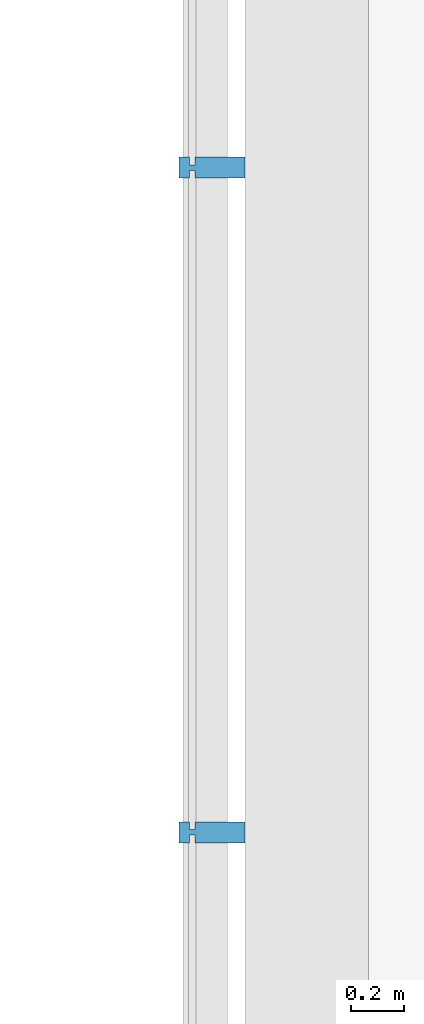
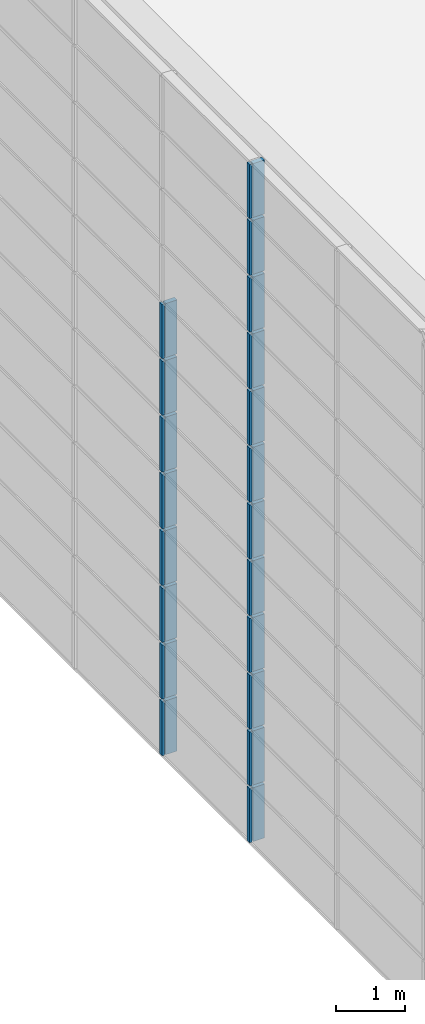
# One storey, part 70 of 105: 20 building element parts, 4 elements without a shape of their own.
"""IFC4 building model written with IfcOpenShell, lengths in millimetres."""

from ifc_helpers import new_model, entity, si_unit, converted_unit, derived_unit, direction, frame, origin_with_axes, place, context, subcontext, project, spatial, triangles, material, element, aggregate, save


model = new_model("IFC4")

# Units and contexts
model_context = context("Model", 3, precision=1e-05, world=origin_with_axes(), true_north=direction((0.0, 1.0)))
body_context = subcontext(model_context, "Body", "Model", "MODEL_VIEW")
ifc_project = project(units=[si_unit("LENGTHUNIT", "METRE", prefix="MILLI"), si_unit("AREAUNIT", "SQUARE_METRE"), si_unit("VOLUMEUNIT", "CUBIC_METRE"), converted_unit("PLANEANGLEUNIT", "DEGREE", entity("IfcLengthMeasure", 0.017453), si_unit("PLANEANGLEUNIT", "RADIAN"), dimensions=[0, 0, 0, 0, 0, 0, 0]), si_unit("SOLIDANGLEUNIT", "STERADIAN"), si_unit("MASSUNIT", "GRAM"), si_unit("TIMEUNIT", "SECOND"), si_unit("THERMODYNAMICTEMPERATUREUNIT", "DEGREE_CELSIUS"), si_unit("LUMINOUSINTENSITYUNIT", "LUMEN"), si_unit("POWERUNIT", "WATT"), derived_unit("THERMALTRANSMITTANCEUNIT", [(si_unit("POWERUNIT", "WATT"), 1), (si_unit("THERMODYNAMICTEMPERATUREUNIT", "KELVIN"), -1), (si_unit("AREAUNIT", "SQUARE_METRE"), -1)])], contexts=[model_context])

# Site, building, storey
site_placement = place(None, origin_with_axes())
site = spatial("IfcSite", under=ifc_project, at=site_placement, Name="Default Site", CompositionType="ELEMENT")
building_placement = place(site_placement, origin_with_axes())
building = spatial("IfcBuilding", under=site, at=building_placement, Name="Default Building", CompositionType="ELEMENT")
storey_placement = place(building_placement, origin_with_axes())
storey = spatial("IfcBuildingStorey", under=building, at=storey_placement, Name="OG - Story", CompositionType="ELEMENT", Elevation=0.0)

# Curtain wall, building element parts
curtain_wall_1_placement = place(storey_placement, origin_with_axes())
curtain_wall_1 = element("IfcCurtainWall", 1, at=curtain_wall_1_placement, inside=storey, Name="Fassade-003", PredefinedType="NOTDEFINED")
ifc_material = material(Name="Blech")
building_element_part_1_placement = place(curtain_wall_1_placement, frame((31551.391327, -51326.104944, 0.0), z_axis=(0.0, 0.0, 1.0), x_axis=(1.0, 0.0, 0.0)))
building_element_part_1 = element("IfcBuildingElementPart", 2, at=building_element_part_1_placement, material=ifc_material, Name="Blech", PredefinedType="NOTDEFINED", context=body_context, shape_type="Tessellation", body=[
    triangles([(200.0, 13854.737, 975.0), (10.0, 13854.737, 975.0), (200.0, 13934.737, 975.0), (10.0, 13884.737, 975.0), (10.0, 13904.737, 975.0), (-9.999, 13884.737, 975.0), (-9.999, 13904.737, 975.0), (-9.999, 13934.737, 975.0), (-9.999, 13854.737, 975.0), (-49.999, 13854.737, 975.0), (-49.999, 13934.737, 975.0), (10.0, 13934.737, 975.0), (10.0, 13904.737, 25.0), (-9.999, 13904.737, 25.0), (-9.999, 13934.737, 25.0), (-49.999, 13934.737, 25.0), (-49.999, 13854.737, 25.0), (-9.999, 13854.737, 25.0), (-9.999, 13884.737, 25.0), (10.0, 13884.737, 25.0), (10.0, 13854.737, 25.0), (200.0, 13854.737, 25.0), (200.0, 13934.737, 25.0), (10.0, 13934.737, 25.0)], [[1, 2, 3], [3, 2, 4], [3, 4, 5], [5, 4, 6], [5, 6, 7], [8, 9, 10], [8, 10, 11], [3, 5, 12], [5, 13, 14], [5, 14, 7], [7, 14, 15], [7, 15, 8], [15, 16, 11], [15, 11, 8], [10, 11, 16], [10, 16, 17], [18, 9, 10], [18, 10, 17], [9, 18, 19], [9, 19, 6], [4, 6, 19], [4, 19, 20], [2, 4, 20], [2, 20, 21], [2, 21, 22], [2, 22, 1], [3, 1, 22], [3, 22, 23], [12, 3, 23], [12, 23, 24], [12, 24, 13], [12, 13, 5], [23, 24, 22], [22, 24, 13], [22, 13, 20], [20, 13, 14], [20, 14, 19], [18, 15, 16], [18, 16, 17], [22, 20, 21]], closed=False),
])
building_element_part_2_placement = place(curtain_wall_1_placement, frame((31551.391327, -51326.104944, 0.0), z_axis=(0.0, 0.0, 1.0), x_axis=(1.0, 0.0, 0.0)))
building_element_part_2 = element("IfcBuildingElementPart", 3, at=building_element_part_2_placement, material=ifc_material, Name="Blech", PredefinedType="NOTDEFINED", context=body_context, shape_type="Tessellation", body=[
    triangles([(200.0, 16381.053, 975.0), (10.0, 16381.053, 975.0), (200.0, 16461.053, 975.0), (10.0, 16411.053, 975.0), (10.0, 16431.053, 975.0), (-9.999, 16411.053, 975.0), (-9.999, 16431.053, 975.0), (-9.999, 16461.053, 975.0), (-9.999, 16381.053, 975.0), (-49.999, 16381.053, 975.0), (-49.999, 16461.053, 975.0), (10.0, 16461.053, 975.0), (10.0, 16431.053, 25.0), (-9.999, 16431.053, 25.0), (-9.999, 16461.053, 25.0), (-49.999, 16461.053, 25.0), (-49.999, 16381.053, 25.0), (-9.999, 16381.053, 25.0), (-9.999, 16411.053, 25.0), (10.0, 16411.053, 25.0), (10.0, 16381.053, 25.0), (200.0, 16381.053, 25.0), (200.0, 16461.053, 25.0), (10.0, 16461.053, 25.0)], [[1, 2, 3], [3, 2, 4], [3, 4, 5], [5, 4, 6], [5, 6, 7], [8, 9, 10], [8, 10, 11], [3, 5, 12], [5, 13, 14], [5, 14, 7], [7, 14, 15], [7, 15, 8], [15, 16, 11], [15, 11, 8], [10, 11, 16], [10, 16, 17], [18, 9, 10], [18, 10, 17], [9, 18, 19], [9, 19, 6], [4, 6, 19], [4, 19, 20], [2, 4, 20], [2, 20, 21], [2, 21, 22], [2, 22, 1], [3, 1, 22], [3, 22, 23], [12, 3, 23], [12, 23, 24], [12, 24, 13], [12, 13, 5], [23, 24, 22], [22, 24, 13], [22, 13, 20], [20, 13, 14], [20, 14, 19], [18, 15, 16], [18, 16, 17], [22, 20, 21]], closed=False),
])
building_element_part_3_placement = place(curtain_wall_1_placement, frame((31551.391327, -51326.104944, 0.0), z_axis=(0.0, 0.0, 1.0), x_axis=(1.0, 0.0, 0.0)))
building_element_part_3 = element("IfcBuildingElementPart", 4, at=building_element_part_3_placement, material=ifc_material, Name="Blech", PredefinedType="NOTDEFINED", context=body_context, shape_type="Tessellation", body=[
    triangles([(200.0, 13854.737, 1975.0), (10.0, 13854.737, 1975.0), (200.0, 13934.737, 1975.0), (10.0, 13884.737, 1975.0), (10.0, 13904.737, 1975.0), (-9.999, 13884.737, 1975.0), (-9.999, 13904.737, 1975.0), (-9.999, 13934.737, 1975.0), (-9.999, 13854.737, 1975.0), (-49.999, 13854.737, 1975.0), (-49.999, 13934.737, 1975.0), (10.0, 13934.737, 1975.0), (10.0, 13904.737, 1025.0), (-9.999, 13904.737, 1025.0), (-9.999, 13934.737, 1025.0), (-49.999, 13934.737, 1025.0), (-49.999, 13854.737, 1025.0), (-9.999, 13854.737, 1025.0), (-9.999, 13884.737, 1025.0), (10.0, 13884.737, 1025.0), (10.0, 13854.737, 1025.0), (200.0, 13854.737, 1025.0), (200.0, 13934.737, 1025.0), (10.0, 13934.737, 1025.0)], [[1, 2, 3], [3, 2, 4], [3, 4, 5], [5, 4, 6], [5, 6, 7], [8, 9, 10], [8, 10, 11], [3, 5, 12], [5, 13, 14], [5, 14, 7], [7, 14, 15], [7, 15, 8], [15, 16, 11], [15, 11, 8], [10, 11, 16], [10, 16, 17], [18, 9, 10], [18, 10, 17], [9, 18, 19], [9, 19, 6], [4, 6, 19], [4, 19, 20], [2, 4, 20], [2, 20, 21], [2, 21, 22], [2, 22, 1], [3, 1, 22], [3, 22, 23], [12, 3, 23], [12, 23, 24], [12, 24, 13], [12, 13, 5], [23, 24, 22], [22, 24, 13], [22, 13, 20], [20, 13, 14], [20, 14, 19], [18, 15, 16], [18, 16, 17], [22, 20, 21]], closed=False),
])
building_element_part_4_placement = place(curtain_wall_1_placement, frame((31551.391327, -51326.104944, 0.0), z_axis=(0.0, 0.0, 1.0), x_axis=(1.0, 0.0, 0.0)))
building_element_part_4 = element("IfcBuildingElementPart", 5, at=building_element_part_4_placement, material=ifc_material, Name="Blech", PredefinedType="NOTDEFINED", context=body_context, shape_type="Tessellation", body=[
    triangles([(200.0, 16381.053, 1975.0), (10.0, 16381.053, 1975.0), (200.0, 16461.053, 1975.0), (10.0, 16411.053, 1975.0), (10.0, 16431.053, 1975.0), (-9.999, 16411.053, 1975.0), (-9.999, 16431.053, 1975.0), (-9.999, 16461.053, 1975.0), (-9.999, 16381.053, 1975.0), (-49.999, 16381.053, 1975.0), (-49.999, 16461.053, 1975.0), (10.0, 16461.053, 1975.0), (10.0, 16431.053, 1025.0), (-9.999, 16431.053, 1025.0), (-9.999, 16461.053, 1025.0), (-49.999, 16461.053, 1025.0), (-49.999, 16381.053, 1025.0), (-9.999, 16381.053, 1025.0), (-9.999, 16411.053, 1025.0), (10.0, 16411.053, 1025.0), (10.0, 16381.053, 1025.0), (200.0, 16381.053, 1025.0), (200.0, 16461.053, 1025.0), (10.0, 16461.053, 1025.0)], [[1, 2, 3], [3, 2, 4], [3, 4, 5], [5, 4, 6], [5, 6, 7], [8, 9, 10], [8, 10, 11], [3, 5, 12], [5, 13, 14], [5, 14, 7], [7, 14, 15], [7, 15, 8], [15, 16, 11], [15, 11, 8], [10, 11, 16], [10, 16, 17], [18, 9, 10], [18, 10, 17], [9, 18, 19], [9, 19, 6], [4, 6, 19], [4, 19, 20], [2, 4, 20], [2, 20, 21], [2, 21, 22], [2, 22, 1], [3, 1, 22], [3, 22, 23], [12, 3, 23], [12, 23, 24], [12, 24, 13], [12, 13, 5], [23, 24, 22], [22, 24, 13], [22, 13, 20], [20, 13, 14], [20, 14, 19], [18, 15, 16], [18, 16, 17], [22, 20, 21]], closed=False),
])
building_element_part_5_placement = place(curtain_wall_1_placement, frame((31551.391327, -51326.104944, 0.0), z_axis=(0.0, 0.0, 1.0), x_axis=(1.0, 0.0, 0.0)))
building_element_part_5 = element("IfcBuildingElementPart", 6, at=building_element_part_5_placement, material=ifc_material, Name="Blech", PredefinedType="NOTDEFINED", context=body_context, shape_type="Tessellation", body=[
    triangles([(200.0, 13854.737, 2975.0), (10.0, 13854.737, 2975.0), (200.0, 13934.737, 2975.0), (10.0, 13884.737, 2975.0), (10.0, 13904.737, 2975.0), (-9.999, 13884.737, 2975.0), (-9.999, 13904.737, 2975.0), (-9.999, 13934.737, 2975.0), (-9.999, 13854.737, 2975.0), (-49.999, 13854.737, 2975.0), (-49.999, 13934.737, 2975.0), (10.0, 13934.737, 2975.0), (10.0, 13904.737, 2025.0), (-9.999, 13904.737, 2025.0), (-9.999, 13934.737, 2025.0), (-49.999, 13934.737, 2025.0), (-49.999, 13854.737, 2025.0), (-9.999, 13854.737, 2025.0), (-9.999, 13884.737, 2025.0), (10.0, 13884.737, 2025.0), (10.0, 13854.737, 2025.0), (200.0, 13854.737, 2025.0), (200.0, 13934.737, 2025.0), (10.0, 13934.737, 2025.0)], [[1, 2, 3], [3, 2, 4], [3, 4, 5], [5, 4, 6], [5, 6, 7], [8, 9, 10], [8, 10, 11], [3, 5, 12], [5, 13, 14], [5, 14, 7], [7, 14, 15], [7, 15, 8], [15, 16, 11], [15, 11, 8], [10, 11, 16], [10, 16, 17], [18, 9, 10], [18, 10, 17], [9, 18, 19], [9, 19, 6], [4, 6, 19], [4, 19, 20], [2, 4, 20], [2, 20, 21], [2, 21, 22], [2, 22, 1], [3, 1, 22], [3, 22, 23], [12, 3, 23], [12, 23, 24], [12, 24, 13], [12, 13, 5], [23, 24, 22], [22, 24, 13], [22, 13, 20], [20, 13, 14], [20, 14, 19], [18, 15, 16], [18, 16, 17], [22, 20, 21]], closed=False),
])
building_element_part_6_placement = place(curtain_wall_1_placement, frame((31551.391327, -51326.104944, 0.0), z_axis=(0.0, 0.0, 1.0), x_axis=(1.0, 0.0, 0.0)))
building_element_part_6 = element("IfcBuildingElementPart", 7, at=building_element_part_6_placement, material=ifc_material, Name="Blech", PredefinedType="NOTDEFINED", context=body_context, shape_type="Tessellation", body=[
    triangles([(200.0, 16381.053, 2975.0), (10.0, 16381.053, 2975.0), (200.0, 16461.053, 2975.0), (10.0, 16411.053, 2975.0), (10.0, 16431.053, 2975.0), (-9.999, 16411.053, 2975.0), (-9.999, 16431.053, 2975.0), (-9.999, 16461.053, 2975.0), (-9.999, 16381.053, 2975.0), (-49.999, 16381.053, 2975.0), (-49.999, 16461.053, 2975.0), (10.0, 16461.053, 2975.0), (10.0, 16431.053, 2025.0), (-9.999, 16431.053, 2025.0), (-9.999, 16461.053, 2025.0), (-49.999, 16461.053, 2025.0), (-49.999, 16381.053, 2025.0), (-9.999, 16381.053, 2025.0), (-9.999, 16411.053, 2025.0), (10.0, 16411.053, 2025.0), (10.0, 16381.053, 2025.0), (200.0, 16381.053, 2025.0), (200.0, 16461.053, 2025.0), (10.0, 16461.053, 2025.0)], [[1, 2, 3], [3, 2, 4], [3, 4, 5], [5, 4, 6], [5, 6, 7], [8, 9, 10], [8, 10, 11], [3, 5, 12], [5, 13, 14], [5, 14, 7], [7, 14, 15], [7, 15, 8], [15, 16, 11], [15, 11, 8], [10, 11, 16], [10, 16, 17], [18, 9, 10], [18, 10, 17], [9, 18, 19], [9, 19, 6], [4, 6, 19], [4, 19, 20], [2, 4, 20], [2, 20, 21], [2, 21, 22], [2, 22, 1], [3, 1, 22], [3, 22, 23], [12, 3, 23], [12, 23, 24], [12, 24, 13], [12, 13, 5], [23, 24, 22], [22, 24, 13], [22, 13, 20], [20, 13, 14], [20, 14, 19], [18, 15, 16], [18, 16, 17], [22, 20, 21]], closed=False),
])
aggregate(curtain_wall_1, [building_element_part_1, building_element_part_2, building_element_part_3, building_element_part_4, building_element_part_5, building_element_part_6])

curtain_wall_2_placement = place(storey_placement, origin_with_axes())
curtain_wall_2 = element("IfcCurtainWall", 8, at=curtain_wall_2_placement, inside=storey, Name="Fassade-003", PredefinedType="NOTDEFINED")
building_element_part_7_placement = place(curtain_wall_2_placement, frame((31551.391327, -51326.104944, 3000.0), z_axis=(0.0, 0.0, 1.0), x_axis=(1.0, 0.0, 0.0)))
building_element_part_7 = element("IfcBuildingElementPart", 9, at=building_element_part_7_placement, material=ifc_material, Name="Blech", PredefinedType="NOTDEFINED", context=body_context, shape_type="Tessellation", body=[
    triangles([(200.0, 13854.737, 975.0), (10.0, 13854.737, 975.0), (200.0, 13934.737, 975.0), (10.0, 13884.737, 975.0), (10.0, 13904.737, 975.0), (-9.999, 13884.737, 975.0), (-9.999, 13904.737, 975.0), (-9.999, 13934.737, 975.0), (-9.999, 13854.737, 975.0), (-49.999, 13854.737, 975.0), (-49.999, 13934.737, 975.0), (10.0, 13934.737, 975.0), (10.0, 13904.737, 25.0), (-9.999, 13904.737, 25.0), (-9.999, 13934.737, 25.0), (-49.999, 13934.737, 25.0), (-49.999, 13854.737, 25.0), (-9.999, 13854.737, 25.0), (-9.999, 13884.737, 25.0), (10.0, 13884.737, 25.0), (10.0, 13854.737, 25.0), (200.0, 13854.737, 25.0), (200.0, 13934.737, 25.0), (10.0, 13934.737, 25.0)], [[1, 2, 3], [3, 2, 4], [3, 4, 5], [5, 4, 6], [5, 6, 7], [8, 9, 10], [8, 10, 11], [3, 5, 12], [5, 13, 14], [5, 14, 7], [7, 14, 15], [7, 15, 8], [15, 16, 11], [15, 11, 8], [10, 11, 16], [10, 16, 17], [18, 9, 10], [18, 10, 17], [9, 18, 19], [9, 19, 6], [4, 6, 19], [4, 19, 20], [2, 4, 20], [2, 20, 21], [2, 21, 22], [2, 22, 1], [3, 1, 22], [3, 22, 23], [12, 3, 23], [12, 23, 24], [12, 24, 13], [12, 13, 5], [23, 24, 22], [22, 24, 13], [22, 13, 20], [20, 13, 14], [20, 14, 19], [18, 15, 16], [18, 16, 17], [22, 20, 21]], closed=False),
])
building_element_part_8_placement = place(curtain_wall_2_placement, frame((31551.391327, -51326.104944, 3000.0), z_axis=(0.0, 0.0, 1.0), x_axis=(1.0, 0.0, 0.0)))
building_element_part_8 = element("IfcBuildingElementPart", 10, at=building_element_part_8_placement, material=ifc_material, Name="Blech", PredefinedType="NOTDEFINED", context=body_context, shape_type="Tessellation", body=[
    triangles([(200.0, 16381.053, 975.0), (10.0, 16381.053, 975.0), (200.0, 16461.053, 975.0), (10.0, 16411.053, 975.0), (10.0, 16431.053, 975.0), (-9.999, 16411.053, 975.0), (-9.999, 16431.053, 975.0), (-9.999, 16461.053, 975.0), (-9.999, 16381.053, 975.0), (-49.999, 16381.053, 975.0), (-49.999, 16461.053, 975.0), (10.0, 16461.053, 975.0), (10.0, 16431.053, 25.0), (-9.999, 16431.053, 25.0), (-9.999, 16461.053, 25.0), (-49.999, 16461.053, 25.0), (-49.999, 16381.053, 25.0), (-9.999, 16381.053, 25.0), (-9.999, 16411.053, 25.0), (10.0, 16411.053, 25.0), (10.0, 16381.053, 25.0), (200.0, 16381.053, 25.0), (200.0, 16461.053, 25.0), (10.0, 16461.053, 25.0)], [[1, 2, 3], [3, 2, 4], [3, 4, 5], [5, 4, 6], [5, 6, 7], [8, 9, 10], [8, 10, 11], [3, 5, 12], [5, 13, 14], [5, 14, 7], [7, 14, 15], [7, 15, 8], [15, 16, 11], [15, 11, 8], [10, 11, 16], [10, 16, 17], [18, 9, 10], [18, 10, 17], [9, 18, 19], [9, 19, 6], [4, 6, 19], [4, 19, 20], [2, 4, 20], [2, 20, 21], [2, 21, 22], [2, 22, 1], [3, 1, 22], [3, 22, 23], [12, 3, 23], [12, 23, 24], [12, 24, 13], [12, 13, 5], [23, 24, 22], [22, 24, 13], [22, 13, 20], [20, 13, 14], [20, 14, 19], [18, 15, 16], [18, 16, 17], [22, 20, 21]], closed=False),
])
building_element_part_9_placement = place(curtain_wall_2_placement, frame((31551.391327, -51326.104944, 3000.0), z_axis=(0.0, 0.0, 1.0), x_axis=(1.0, 0.0, 0.0)))
building_element_part_9 = element("IfcBuildingElementPart", 11, at=building_element_part_9_placement, material=ifc_material, Name="Blech", PredefinedType="NOTDEFINED", context=body_context, shape_type="Tessellation", body=[
    triangles([(200.0, 13854.737, 1975.0), (10.0, 13854.737, 1975.0), (200.0, 13934.737, 1975.0), (10.0, 13884.737, 1975.0), (10.0, 13904.737, 1975.0), (-9.999, 13884.737, 1975.0), (-9.999, 13904.737, 1975.0), (-9.999, 13934.737, 1975.0), (-9.999, 13854.737, 1975.0), (-49.999, 13854.737, 1975.0), (-49.999, 13934.737, 1975.0), (10.0, 13934.737, 1975.0), (10.0, 13904.737, 1025.0), (-9.999, 13904.737, 1025.0), (-9.999, 13934.737, 1025.0), (-49.999, 13934.737, 1025.0), (-49.999, 13854.737, 1025.0), (-9.999, 13854.737, 1025.0), (-9.999, 13884.737, 1025.0), (10.0, 13884.737, 1025.0), (10.0, 13854.737, 1025.0), (200.0, 13854.737, 1025.0), (200.0, 13934.737, 1025.0), (10.0, 13934.737, 1025.0)], [[1, 2, 3], [3, 2, 4], [3, 4, 5], [5, 4, 6], [5, 6, 7], [8, 9, 10], [8, 10, 11], [3, 5, 12], [5, 13, 14], [5, 14, 7], [7, 14, 15], [7, 15, 8], [15, 16, 11], [15, 11, 8], [10, 11, 16], [10, 16, 17], [18, 9, 10], [18, 10, 17], [9, 18, 19], [9, 19, 6], [4, 6, 19], [4, 19, 20], [2, 4, 20], [2, 20, 21], [2, 21, 22], [2, 22, 1], [3, 1, 22], [3, 22, 23], [12, 3, 23], [12, 23, 24], [12, 24, 13], [12, 13, 5], [23, 24, 22], [22, 24, 13], [22, 13, 20], [20, 13, 14], [20, 14, 19], [18, 15, 16], [18, 16, 17], [22, 20, 21]], closed=False),
])
building_element_part_10_placement = place(curtain_wall_2_placement, frame((31551.391327, -51326.104944, 3000.0), z_axis=(0.0, 0.0, 1.0), x_axis=(1.0, 0.0, 0.0)))
building_element_part_10 = element("IfcBuildingElementPart", 12, at=building_element_part_10_placement, material=ifc_material, Name="Blech", PredefinedType="NOTDEFINED", context=body_context, shape_type="Tessellation", body=[
    triangles([(200.0, 16381.053, 1975.0), (10.0, 16381.053, 1975.0), (200.0, 16461.053, 1975.0), (10.0, 16411.053, 1975.0), (10.0, 16431.053, 1975.0), (-9.999, 16411.053, 1975.0), (-9.999, 16431.053, 1975.0), (-9.999, 16461.053, 1975.0), (-9.999, 16381.053, 1975.0), (-49.999, 16381.053, 1975.0), (-49.999, 16461.053, 1975.0), (10.0, 16461.053, 1975.0), (10.0, 16431.053, 1025.0), (-9.999, 16431.053, 1025.0), (-9.999, 16461.053, 1025.0), (-49.999, 16461.053, 1025.0), (-49.999, 16381.053, 1025.0), (-9.999, 16381.053, 1025.0), (-9.999, 16411.053, 1025.0), (10.0, 16411.053, 1025.0), (10.0, 16381.053, 1025.0), (200.0, 16381.053, 1025.0), (200.0, 16461.053, 1025.0), (10.0, 16461.053, 1025.0)], [[1, 2, 3], [3, 2, 4], [3, 4, 5], [5, 4, 6], [5, 6, 7], [8, 9, 10], [8, 10, 11], [3, 5, 12], [5, 13, 14], [5, 14, 7], [7, 14, 15], [7, 15, 8], [15, 16, 11], [15, 11, 8], [10, 11, 16], [10, 16, 17], [18, 9, 10], [18, 10, 17], [9, 18, 19], [9, 19, 6], [4, 6, 19], [4, 19, 20], [2, 4, 20], [2, 20, 21], [2, 21, 22], [2, 22, 1], [3, 1, 22], [3, 22, 23], [12, 3, 23], [12, 23, 24], [12, 24, 13], [12, 13, 5], [23, 24, 22], [22, 24, 13], [22, 13, 20], [20, 13, 14], [20, 14, 19], [18, 15, 16], [18, 16, 17], [22, 20, 21]], closed=False),
])
building_element_part_11_placement = place(curtain_wall_2_placement, frame((31551.391327, -51326.104944, 3000.0), z_axis=(0.0, 0.0, 1.0), x_axis=(1.0, 0.0, 0.0)))
building_element_part_11 = element("IfcBuildingElementPart", 13, at=building_element_part_11_placement, material=ifc_material, Name="Blech", PredefinedType="NOTDEFINED", context=body_context, shape_type="Tessellation", body=[
    triangles([(200.0, 13854.737, 2975.0), (10.0, 13854.737, 2975.0), (200.0, 13934.737, 2975.0), (10.0, 13884.737, 2975.0), (10.0, 13904.737, 2975.0), (-9.999, 13884.737, 2975.0), (-9.999, 13904.737, 2975.0), (-9.999, 13934.737, 2975.0), (-9.999, 13854.737, 2975.0), (-49.999, 13854.737, 2975.0), (-49.999, 13934.737, 2975.0), (10.0, 13934.737, 2975.0), (10.0, 13904.737, 2025.0), (-9.999, 13904.737, 2025.0), (-9.999, 13934.737, 2025.0), (-49.999, 13934.737, 2025.0), (-49.999, 13854.737, 2025.0), (-9.999, 13854.737, 2025.0), (-9.999, 13884.737, 2025.0), (10.0, 13884.737, 2025.0), (10.0, 13854.737, 2025.0), (200.0, 13854.737, 2025.0), (200.0, 13934.737, 2025.0), (10.0, 13934.737, 2025.0)], [[1, 2, 3], [3, 2, 4], [3, 4, 5], [5, 4, 6], [5, 6, 7], [8, 9, 10], [8, 10, 11], [3, 5, 12], [5, 13, 14], [5, 14, 7], [7, 14, 15], [7, 15, 8], [15, 16, 11], [15, 11, 8], [10, 11, 16], [10, 16, 17], [18, 9, 10], [18, 10, 17], [9, 18, 19], [9, 19, 6], [4, 6, 19], [4, 19, 20], [2, 4, 20], [2, 20, 21], [2, 21, 22], [2, 22, 1], [3, 1, 22], [3, 22, 23], [12, 3, 23], [12, 23, 24], [12, 24, 13], [12, 13, 5], [23, 24, 22], [22, 24, 13], [22, 13, 20], [20, 13, 14], [20, 14, 19], [18, 15, 16], [18, 16, 17], [22, 20, 21]], closed=False),
])
building_element_part_12_placement = place(curtain_wall_2_placement, frame((31551.391327, -51326.104944, 3000.0), z_axis=(0.0, 0.0, 1.0), x_axis=(1.0, 0.0, 0.0)))
building_element_part_12 = element("IfcBuildingElementPart", 14, at=building_element_part_12_placement, material=ifc_material, Name="Blech", PredefinedType="NOTDEFINED", context=body_context, shape_type="Tessellation", body=[
    triangles([(200.0, 16381.053, 2975.0), (10.0, 16381.053, 2975.0), (200.0, 16461.053, 2975.0), (10.0, 16411.053, 2975.0), (10.0, 16431.053, 2975.0), (-9.999, 16411.053, 2975.0), (-9.999, 16431.053, 2975.0), (-9.999, 16461.053, 2975.0), (-9.999, 16381.053, 2975.0), (-49.999, 16381.053, 2975.0), (-49.999, 16461.053, 2975.0), (10.0, 16461.053, 2975.0), (10.0, 16431.053, 2025.0), (-9.999, 16431.053, 2025.0), (-9.999, 16461.053, 2025.0), (-49.999, 16461.053, 2025.0), (-49.999, 16381.053, 2025.0), (-9.999, 16381.053, 2025.0), (-9.999, 16411.053, 2025.0), (10.0, 16411.053, 2025.0), (10.0, 16381.053, 2025.0), (200.0, 16381.053, 2025.0), (200.0, 16461.053, 2025.0), (10.0, 16461.053, 2025.0)], [[1, 2, 3], [3, 2, 4], [3, 4, 5], [5, 4, 6], [5, 6, 7], [8, 9, 10], [8, 10, 11], [3, 5, 12], [5, 13, 14], [5, 14, 7], [7, 14, 15], [7, 15, 8], [15, 16, 11], [15, 11, 8], [10, 11, 16], [10, 16, 17], [18, 9, 10], [18, 10, 17], [9, 18, 19], [9, 19, 6], [4, 6, 19], [4, 19, 20], [2, 4, 20], [2, 20, 21], [2, 21, 22], [2, 22, 1], [3, 1, 22], [3, 22, 23], [12, 3, 23], [12, 23, 24], [12, 24, 13], [12, 13, 5], [23, 24, 22], [22, 24, 13], [22, 13, 20], [20, 13, 14], [20, 14, 19], [18, 15, 16], [18, 16, 17], [22, 20, 21]], closed=False),
])
aggregate(curtain_wall_2, [building_element_part_7, building_element_part_8, building_element_part_9, building_element_part_10, building_element_part_11, building_element_part_12])

curtain_wall_3_placement = place(storey_placement, origin_with_axes())
curtain_wall_3 = element("IfcCurtainWall", 15, at=curtain_wall_3_placement, inside=storey, Name="Fassade-003", PredefinedType="NOTDEFINED")
building_element_part_13_placement = place(curtain_wall_3_placement, frame((31551.391327, -51326.104944, 6000.0), z_axis=(0.0, 0.0, 1.0), x_axis=(1.0, 0.0, 0.0)))
building_element_part_13 = element("IfcBuildingElementPart", 16, at=building_element_part_13_placement, material=ifc_material, Name="Blech", PredefinedType="NOTDEFINED", context=body_context, shape_type="Tessellation", body=[
    triangles([(200.0, 13854.737, 975.0), (10.0, 13854.737, 975.0), (200.0, 13934.737, 975.0), (10.0, 13884.737, 975.0), (10.0, 13904.737, 975.0), (-9.999, 13884.737, 975.0), (-9.999, 13904.737, 975.0), (-9.999, 13934.737, 975.0), (-9.999, 13854.737, 975.0), (-49.999, 13854.737, 975.0), (-49.999, 13934.737, 975.0), (10.0, 13934.737, 975.0), (10.0, 13904.737, 25.0), (-9.999, 13904.737, 25.0), (-9.999, 13934.737, 25.0), (-49.999, 13934.737, 25.0), (-49.999, 13854.737, 25.0), (-9.999, 13854.737, 25.0), (-9.999, 13884.737, 25.0), (10.0, 13884.737, 25.0), (10.0, 13854.737, 25.0), (200.0, 13854.737, 25.0), (200.0, 13934.737, 25.0), (10.0, 13934.737, 25.0)], [[1, 2, 3], [3, 2, 4], [3, 4, 5], [5, 4, 6], [5, 6, 7], [8, 9, 10], [8, 10, 11], [3, 5, 12], [5, 13, 14], [5, 14, 7], [7, 14, 15], [7, 15, 8], [15, 16, 11], [15, 11, 8], [10, 11, 16], [10, 16, 17], [18, 9, 10], [18, 10, 17], [9, 18, 19], [9, 19, 6], [4, 6, 19], [4, 19, 20], [2, 4, 20], [2, 20, 21], [2, 21, 22], [2, 22, 1], [3, 1, 22], [3, 22, 23], [12, 3, 23], [12, 23, 24], [12, 24, 13], [12, 13, 5], [23, 24, 22], [22, 24, 13], [22, 13, 20], [20, 13, 14], [20, 14, 19], [18, 15, 16], [18, 16, 17], [22, 20, 21]], closed=False),
])
building_element_part_14_placement = place(curtain_wall_3_placement, frame((31551.391327, -51326.104944, 6000.0), z_axis=(0.0, 0.0, 1.0), x_axis=(1.0, 0.0, 0.0)))
building_element_part_14 = element("IfcBuildingElementPart", 17, at=building_element_part_14_placement, material=ifc_material, Name="Blech", PredefinedType="NOTDEFINED", context=body_context, shape_type="Tessellation", body=[
    triangles([(200.0, 16381.053, 975.0), (10.0, 16381.053, 975.0), (200.0, 16461.053, 975.0), (10.0, 16411.053, 975.0), (10.0, 16431.053, 975.0), (-9.999, 16411.053, 975.0), (-9.999, 16431.053, 975.0), (-9.999, 16461.053, 975.0), (-9.999, 16381.053, 975.0), (-49.999, 16381.053, 975.0), (-49.999, 16461.053, 975.0), (10.0, 16461.053, 975.0), (10.0, 16431.053, 25.0), (-9.999, 16431.053, 25.0), (-9.999, 16461.053, 25.0), (-49.999, 16461.053, 25.0), (-49.999, 16381.053, 25.0), (-9.999, 16381.053, 25.0), (-9.999, 16411.053, 25.0), (10.0, 16411.053, 25.0), (10.0, 16381.053, 25.0), (200.0, 16381.053, 25.0), (200.0, 16461.053, 25.0), (10.0, 16461.053, 25.0)], [[1, 2, 3], [3, 2, 4], [3, 4, 5], [5, 4, 6], [5, 6, 7], [8, 9, 10], [8, 10, 11], [3, 5, 12], [5, 13, 14], [5, 14, 7], [7, 14, 15], [7, 15, 8], [15, 16, 11], [15, 11, 8], [10, 11, 16], [10, 16, 17], [18, 9, 10], [18, 10, 17], [9, 18, 19], [9, 19, 6], [4, 6, 19], [4, 19, 20], [2, 4, 20], [2, 20, 21], [2, 21, 22], [2, 22, 1], [3, 1, 22], [3, 22, 23], [12, 3, 23], [12, 23, 24], [12, 24, 13], [12, 13, 5], [23, 24, 22], [22, 24, 13], [22, 13, 20], [20, 13, 14], [20, 14, 19], [18, 15, 16], [18, 16, 17], [22, 20, 21]], closed=False),
])
building_element_part_15_placement = place(curtain_wall_3_placement, frame((31551.391327, -51326.104944, 6000.0), z_axis=(0.0, 0.0, 1.0), x_axis=(1.0, 0.0, 0.0)))
building_element_part_15 = element("IfcBuildingElementPart", 18, at=building_element_part_15_placement, material=ifc_material, Name="Blech", PredefinedType="NOTDEFINED", context=body_context, shape_type="Tessellation", body=[
    triangles([(200.0, 13854.737, 1975.0), (10.0, 13854.737, 1975.0), (200.0, 13934.737, 1975.0), (10.0, 13884.737, 1975.0), (10.0, 13904.737, 1975.0), (-9.999, 13884.737, 1975.0), (-9.999, 13904.737, 1975.0), (-9.999, 13934.737, 1975.0), (-9.999, 13854.737, 1975.0), (-49.999, 13854.737, 1975.0), (-49.999, 13934.737, 1975.0), (10.0, 13934.737, 1975.0), (10.0, 13904.737, 1025.0), (-9.999, 13904.737, 1025.0), (-9.999, 13934.737, 1025.0), (-49.999, 13934.737, 1025.0), (-49.999, 13854.737, 1025.0), (-9.999, 13854.737, 1025.0), (-9.999, 13884.737, 1025.0), (10.0, 13884.737, 1025.0), (10.0, 13854.737, 1025.0), (200.0, 13854.737, 1025.0), (200.0, 13934.737, 1025.0), (10.0, 13934.737, 1025.0)], [[1, 2, 3], [3, 2, 4], [3, 4, 5], [5, 4, 6], [5, 6, 7], [8, 9, 10], [8, 10, 11], [3, 5, 12], [5, 13, 14], [5, 14, 7], [7, 14, 15], [7, 15, 8], [15, 16, 11], [15, 11, 8], [10, 11, 16], [10, 16, 17], [18, 9, 10], [18, 10, 17], [9, 18, 19], [9, 19, 6], [4, 6, 19], [4, 19, 20], [2, 4, 20], [2, 20, 21], [2, 21, 22], [2, 22, 1], [3, 1, 22], [3, 22, 23], [12, 3, 23], [12, 23, 24], [12, 24, 13], [12, 13, 5], [23, 24, 22], [22, 24, 13], [22, 13, 20], [20, 13, 14], [20, 14, 19], [18, 15, 16], [18, 16, 17], [22, 20, 21]], closed=False),
])
building_element_part_16_placement = place(curtain_wall_3_placement, frame((31551.391327, -51326.104944, 6000.0), z_axis=(0.0, 0.0, 1.0), x_axis=(1.0, 0.0, 0.0)))
building_element_part_16 = element("IfcBuildingElementPart", 19, at=building_element_part_16_placement, material=ifc_material, Name="Blech", PredefinedType="NOTDEFINED", context=body_context, shape_type="Tessellation", body=[
    triangles([(200.0, 16381.053, 1975.0), (10.0, 16381.053, 1975.0), (200.0, 16461.053, 1975.0), (10.0, 16411.053, 1975.0), (10.0, 16431.053, 1975.0), (-9.999, 16411.053, 1975.0), (-9.999, 16431.053, 1975.0), (-9.999, 16461.053, 1975.0), (-9.999, 16381.053, 1975.0), (-49.999, 16381.053, 1975.0), (-49.999, 16461.053, 1975.0), (10.0, 16461.053, 1975.0), (10.0, 16431.053, 1025.0), (-9.999, 16431.053, 1025.0), (-9.999, 16461.053, 1025.0), (-49.999, 16461.053, 1025.0), (-49.999, 16381.053, 1025.0), (-9.999, 16381.053, 1025.0), (-9.999, 16411.053, 1025.0), (10.0, 16411.053, 1025.0), (10.0, 16381.053, 1025.0), (200.0, 16381.053, 1025.0), (200.0, 16461.053, 1025.0), (10.0, 16461.053, 1025.0)], [[1, 2, 3], [3, 2, 4], [3, 4, 5], [5, 4, 6], [5, 6, 7], [8, 9, 10], [8, 10, 11], [3, 5, 12], [5, 13, 14], [5, 14, 7], [7, 14, 15], [7, 15, 8], [15, 16, 11], [15, 11, 8], [10, 11, 16], [10, 16, 17], [18, 9, 10], [18, 10, 17], [9, 18, 19], [9, 19, 6], [4, 6, 19], [4, 19, 20], [2, 4, 20], [2, 20, 21], [2, 21, 22], [2, 22, 1], [3, 1, 22], [3, 22, 23], [12, 3, 23], [12, 23, 24], [12, 24, 13], [12, 13, 5], [23, 24, 22], [22, 24, 13], [22, 13, 20], [20, 13, 14], [20, 14, 19], [18, 15, 16], [18, 16, 17], [22, 20, 21]], closed=False),
])
building_element_part_17_placement = place(curtain_wall_3_placement, frame((31551.391327, -51326.104944, 6000.0), z_axis=(0.0, 0.0, 1.0), x_axis=(1.0, 0.0, 0.0)))
building_element_part_17 = element("IfcBuildingElementPart", 20, at=building_element_part_17_placement, material=ifc_material, Name="Blech", PredefinedType="NOTDEFINED", context=body_context, shape_type="Tessellation", body=[
    triangles([(200.0, 13854.737, 2975.0), (10.0, 13854.737, 2975.0), (200.0, 13934.737, 2975.0), (10.0, 13884.737, 2975.0), (10.0, 13904.737, 2975.0), (-9.999, 13884.737, 2975.0), (-9.999, 13904.737, 2975.0), (-9.999, 13934.737, 2975.0), (-9.999, 13854.737, 2975.0), (-49.999, 13854.737, 2975.0), (-49.999, 13934.737, 2975.0), (10.0, 13934.737, 2975.0), (10.0, 13904.737, 2025.0), (-9.999, 13904.737, 2025.0), (-9.999, 13934.737, 2025.0), (-49.999, 13934.737, 2025.0), (-49.999, 13854.737, 2025.0), (-9.999, 13854.737, 2025.0), (-9.999, 13884.737, 2025.0), (10.0, 13884.737, 2025.0), (10.0, 13854.737, 2025.0), (200.0, 13854.737, 2025.0), (200.0, 13934.737, 2025.0), (10.0, 13934.737, 2025.0)], [[1, 2, 3], [3, 2, 4], [3, 4, 5], [5, 4, 6], [5, 6, 7], [8, 9, 10], [8, 10, 11], [3, 5, 12], [5, 13, 14], [5, 14, 7], [7, 14, 15], [7, 15, 8], [15, 16, 11], [15, 11, 8], [10, 11, 16], [10, 16, 17], [18, 9, 10], [18, 10, 17], [9, 18, 19], [9, 19, 6], [4, 6, 19], [4, 19, 20], [2, 4, 20], [2, 20, 21], [2, 21, 22], [2, 22, 1], [3, 1, 22], [3, 22, 23], [12, 3, 23], [12, 23, 24], [12, 24, 13], [12, 13, 5], [23, 24, 22], [22, 24, 13], [22, 13, 20], [20, 13, 14], [20, 14, 19], [18, 15, 16], [18, 16, 17], [22, 20, 21]], closed=False),
])
aggregate(curtain_wall_3, [building_element_part_13, building_element_part_14, building_element_part_15, building_element_part_16, building_element_part_17])

curtain_wall_4_placement = place(storey_placement, origin_with_axes())
curtain_wall_4 = element("IfcCurtainWall", 21, at=curtain_wall_4_placement, inside=storey, Name="Fassade-003", PredefinedType="NOTDEFINED")
building_element_part_18_placement = place(curtain_wall_4_placement, frame((31551.391327, -51326.104944, 9000.0), z_axis=(0.0, 0.0, 1.0), x_axis=(1.0, 0.0, 0.0)))
building_element_part_18 = element("IfcBuildingElementPart", 22, at=building_element_part_18_placement, material=ifc_material, Name="Blech", PredefinedType="NOTDEFINED", context=body_context, shape_type="Tessellation", body=[
    triangles([(200.0, 13854.737, 975.0), (10.0, 13854.737, 975.0), (200.0, 13934.737, 975.0), (10.0, 13884.737, 975.0), (10.0, 13904.737, 975.0), (-9.999, 13884.737, 975.0), (-9.999, 13904.737, 975.0), (-9.999, 13934.737, 975.0), (-9.999, 13854.737, 975.0), (-49.999, 13854.737, 975.0), (-49.999, 13934.737, 975.0), (10.0, 13934.737, 975.0), (10.0, 13904.737, 25.0), (-9.999, 13904.737, 25.0), (-9.999, 13934.737, 25.0), (-49.999, 13934.737, 25.0), (-49.999, 13854.737, 25.0), (-9.999, 13854.737, 25.0), (-9.999, 13884.737, 25.0), (10.0, 13884.737, 25.0), (10.0, 13854.737, 25.0), (200.0, 13854.737, 25.0), (200.0, 13934.737, 25.0), (10.0, 13934.737, 25.0)], [[1, 2, 3], [3, 2, 4], [3, 4, 5], [5, 4, 6], [5, 6, 7], [8, 9, 10], [8, 10, 11], [3, 5, 12], [5, 13, 14], [5, 14, 7], [7, 14, 15], [7, 15, 8], [15, 16, 11], [15, 11, 8], [10, 11, 16], [10, 16, 17], [18, 9, 10], [18, 10, 17], [9, 18, 19], [9, 19, 6], [4, 6, 19], [4, 19, 20], [2, 4, 20], [2, 20, 21], [2, 21, 22], [2, 22, 1], [3, 1, 22], [3, 22, 23], [12, 3, 23], [12, 23, 24], [12, 24, 13], [12, 13, 5], [23, 24, 22], [22, 24, 13], [22, 13, 20], [20, 13, 14], [20, 14, 19], [18, 15, 16], [18, 16, 17], [22, 20, 21]], closed=False),
])
building_element_part_19_placement = place(curtain_wall_4_placement, frame((31551.391327, -51326.104944, 9000.0), z_axis=(0.0, 0.0, 1.0), x_axis=(1.0, 0.0, 0.0)))
building_element_part_19 = element("IfcBuildingElementPart", 23, at=building_element_part_19_placement, material=ifc_material, Name="Blech", PredefinedType="NOTDEFINED", context=body_context, shape_type="Tessellation", body=[
    triangles([(200.0, 13854.737, 1975.0), (10.0, 13854.737, 1975.0), (200.0, 13934.737, 1975.0), (10.0, 13884.737, 1975.0), (10.0, 13904.737, 1975.0), (-9.999, 13884.737, 1975.0), (-9.999, 13904.737, 1975.0), (-9.999, 13934.737, 1975.0), (-9.999, 13854.737, 1975.0), (-49.999, 13854.737, 1975.0), (-49.999, 13934.737, 1975.0), (10.0, 13934.737, 1975.0), (10.0, 13904.737, 1025.0), (-9.999, 13904.737, 1025.0), (-9.999, 13934.737, 1025.0), (-49.999, 13934.737, 1025.0), (-49.999, 13854.737, 1025.0), (-9.999, 13854.737, 1025.0), (-9.999, 13884.737, 1025.0), (10.0, 13884.737, 1025.0), (10.0, 13854.737, 1025.0), (200.0, 13854.737, 1025.0), (200.0, 13934.737, 1025.0), (10.0, 13934.737, 1025.0)], [[1, 2, 3], [3, 2, 4], [3, 4, 5], [5, 4, 6], [5, 6, 7], [8, 9, 10], [8, 10, 11], [3, 5, 12], [5, 13, 14], [5, 14, 7], [7, 14, 15], [7, 15, 8], [15, 16, 11], [15, 11, 8], [10, 11, 16], [10, 16, 17], [18, 9, 10], [18, 10, 17], [9, 18, 19], [9, 19, 6], [4, 6, 19], [4, 19, 20], [2, 4, 20], [2, 20, 21], [2, 21, 22], [2, 22, 1], [3, 1, 22], [3, 22, 23], [12, 3, 23], [12, 23, 24], [12, 24, 13], [12, 13, 5], [23, 24, 22], [22, 24, 13], [22, 13, 20], [20, 13, 14], [20, 14, 19], [18, 15, 16], [18, 16, 17], [22, 20, 21]], closed=False),
])
building_element_part_20_placement = place(curtain_wall_4_placement, frame((31551.391327, -51326.104944, 9000.0), z_axis=(0.0, 0.0, 1.0), x_axis=(1.0, 0.0, 0.0)))
building_element_part_20 = element("IfcBuildingElementPart", 24, at=building_element_part_20_placement, material=ifc_material, Name="Blech", PredefinedType="NOTDEFINED", context=body_context, shape_type="Tessellation", body=[
    triangles([(200.0, 13854.737, 2975.0), (10.0, 13854.737, 2975.0), (200.0, 13934.737, 2975.0), (10.0, 13884.737, 2975.0), (10.0, 13904.737, 2975.0), (-9.999, 13884.737, 2975.0), (-9.999, 13904.737, 2975.0), (-9.999, 13934.737, 2975.0), (-9.999, 13854.737, 2975.0), (-49.999, 13854.737, 2975.0), (-49.999, 13934.737, 2975.0), (10.0, 13934.737, 2975.0), (10.0, 13904.737, 2025.0), (-9.999, 13904.737, 2025.0), (-9.999, 13934.737, 2025.0), (-49.999, 13934.737, 2025.0), (-49.999, 13854.737, 2025.0), (-9.999, 13854.737, 2025.0), (-9.999, 13884.737, 2025.0), (10.0, 13884.737, 2025.0), (10.0, 13854.737, 2025.0), (200.0, 13854.737, 2025.0), (200.0, 13934.737, 2025.0), (10.0, 13934.737, 2025.0)], [[1, 2, 3], [3, 2, 4], [3, 4, 5], [5, 4, 6], [5, 6, 7], [8, 9, 10], [8, 10, 11], [3, 5, 12], [5, 13, 14], [5, 14, 7], [7, 14, 15], [7, 15, 8], [15, 16, 11], [15, 11, 8], [10, 11, 16], [10, 16, 17], [18, 9, 10], [18, 10, 17], [9, 18, 19], [9, 19, 6], [4, 6, 19], [4, 19, 20], [2, 4, 20], [2, 20, 21], [2, 21, 22], [2, 22, 1], [3, 1, 22], [3, 22, 23], [12, 3, 23], [12, 23, 24], [12, 24, 13], [12, 13, 5], [23, 24, 22], [22, 24, 13], [22, 13, 20], [20, 13, 14], [20, 14, 19], [18, 15, 16], [18, 16, 17], [22, 20, 21]], closed=False),
])
aggregate(curtain_wall_4, [building_element_part_18, building_element_part_19, building_element_part_20])

save(model, "model.ifc")
